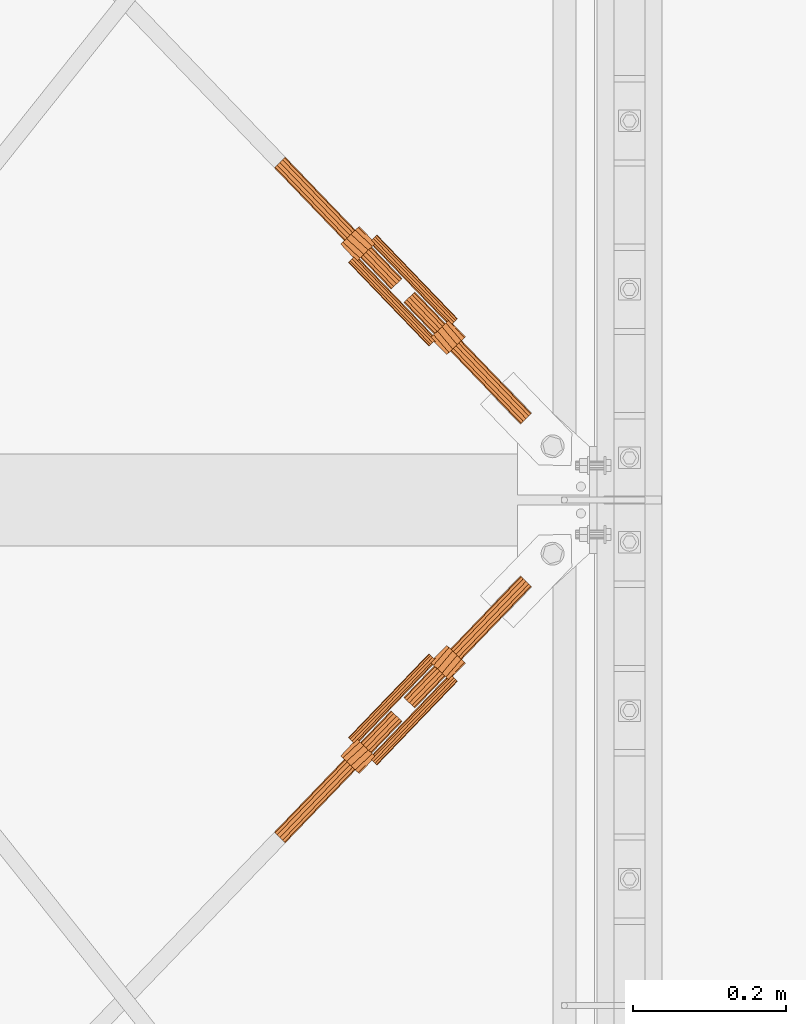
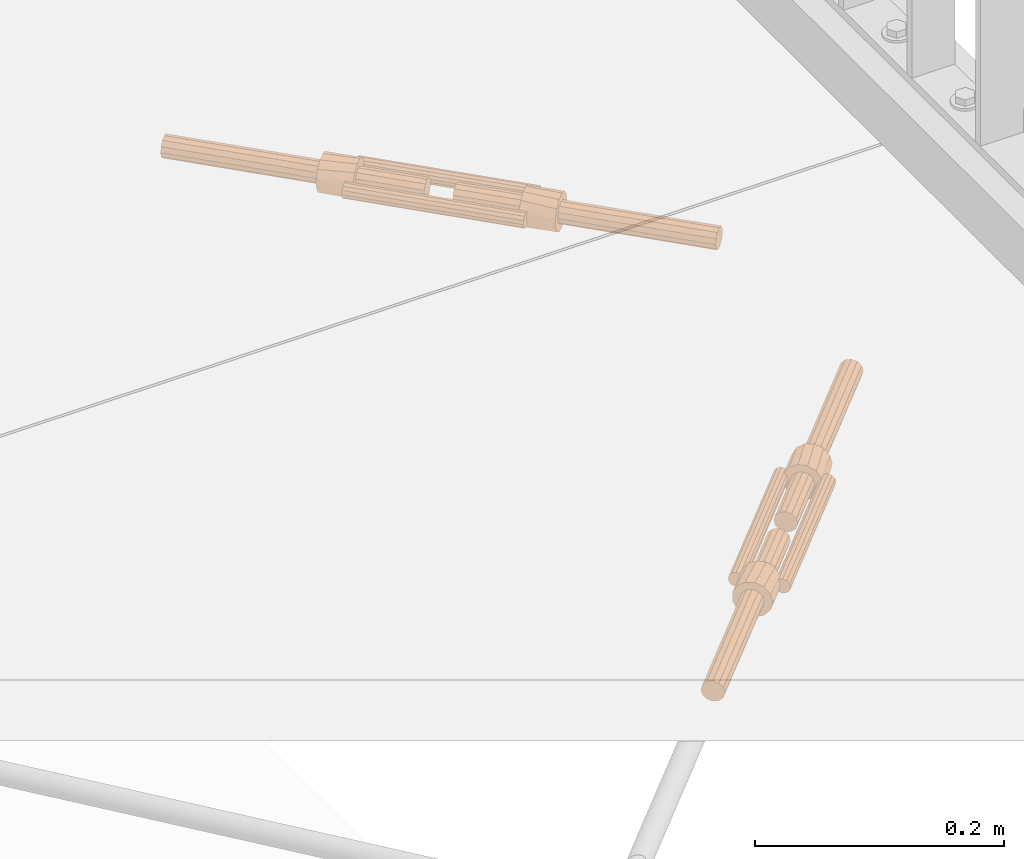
# One storey, part 133 of 145: 2 proxies.
"""IFC2X3 building model written with IfcOpenShell, lengths in millimetres."""

from ifc_helpers import new_model, entity, si_unit, converted_unit, origin_with_axes, place, context, project, spatial, faceted_brep, material, element, save


model = new_model("IFC2X3")

# Units and contexts
model_context = context("Model", 3, precision=1e-09, world=origin_with_axes())
ifc_project = project(units=[si_unit("LENGTHUNIT", "METRE", prefix="MILLI"), si_unit("AREAUNIT", "SQUARE_METRE"), si_unit("VOLUMEUNIT", "CUBIC_METRE"), converted_unit("PLANEANGLEUNIT", "DEGREE", entity("IfcPlaneAngleMeasure", 0.01745329), si_unit("PLANEANGLEUNIT", "RADIAN"), dimensions=[0, 0, 0, 0, 0, 0, 0])], contexts=[model_context])

# Site, building, storey
site_placement = place(None, origin_with_axes())
site = spatial("IfcSite", under=ifc_project, at=site_placement, Name="BZ1 Grund- und Mittelschule 85716 Unterschlei?heim", CompositionType="ELEMENT")
building_placement = place(site_placement, origin_with_axes())
building = spatial("IfcBuilding", under=site, at=building_placement, Name="Struktur 1", CompositionType="ELEMENT")
storey_placement = place(building_placement, origin_with_axes())
storey = spatial("IfcBuildingStorey", under=building, at=storey_placement, Name="Default Storey", CompositionType="ELEMENT", Elevation=0.0)

# Proxies
ifc_material = material(Name="S235JR")
proxy_1_placement = place(None, origin_with_axes())
element("IfcBuildingElementProxy", 1, at=proxy_1_placement, inside=storey, material=ifc_material, ObjectType="-", context=model_context, shape_type="Brep", body=[
    faceted_brep([(21352.091775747, -1493.731638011, 1442.058250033), (21246.766919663, -1384.138414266, 1442.058250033), (21246.122779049, -1384.757467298, 1438.6363644), (21351.447635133, -1494.350691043, 1438.6363644), (21246.766919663, -1384.138414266, 1435.214478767), (21352.091775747, -1493.731638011, 1435.214478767), (21252.707718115, -1378.428994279, 1440.758397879), (21252.707718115, -1378.428994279, 1436.514330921), (21253.465676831, -1377.700556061, 1432.402521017), (21250.975496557, -1380.093750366, 1431.641555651), (21248.534922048, -1382.439270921, 1432.666043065), (21248.534922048, -1382.439270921, 1444.606685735), (21250.975496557, -1380.093750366, 1445.631173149), (21253.465676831, -1377.700556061, 1444.870207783), (21353.859778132, -1492.032494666, 1444.606685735), (21356.300352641, -1489.686974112, 1431.641555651), (21353.859778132, -1492.032494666, 1432.666043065), (21258.03899295, -1382.459209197, 1432.402521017), (21354.217216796, -1482.53512667, 1432.402521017), (21358.790532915, -1487.293779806, 1432.402521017), (21358.032574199, -1488.022218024, 1436.514330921), (21358.032574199, -1488.022218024, 1440.758397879), (21358.790532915, -1487.293779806, 1444.870207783), (21356.300352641, -1489.686974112, 1445.631173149), (21356.847103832, -1480.007666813, 1437.110737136), (21355.911199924, -1480.907119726, 1434.349356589), (21259.732976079, -1380.831202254, 1434.349356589), (21260.668879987, -1379.93174934, 1437.110737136), (21261.385930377, -1379.242626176, 1425.824378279), (21266.53984724, -1374.289440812, 1422.119860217), (21272.344761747, -1368.710612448, 1422.119860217), (21277.49867861, -1363.757427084, 1425.824378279), (21280.845616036, -1360.540844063, 1432.402521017), (21279.151632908, -1362.168851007, 1434.349356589), (21278.215729, -1363.06830392, 1437.110737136), (21278.215729, -1363.06830392, 1440.161991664), (21279.151632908, -1362.168851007, 1442.923372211), (21280.845616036, -1360.540844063, 1444.870207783), (21277.49867861, -1363.757427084, 1451.448350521), (21272.344761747, -1368.710612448, 1455.152868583), (21266.53984724, -1374.289440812, 1455.152868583), (21261.385930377, -1379.242626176, 1451.448350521), (21258.03899295, -1382.459209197, 1444.870207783), (21259.732976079, -1380.831202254, 1442.923372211), (21260.668879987, -1379.93174934, 1440.161991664), (21356.847103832, -1480.007666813, 1440.161991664), (21357.564154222, -1479.318543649, 1451.448350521), (21362.718071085, -1474.365358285, 1455.152868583), (21368.522985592, -1468.786529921, 1455.152868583), (21373.676902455, -1463.833344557, 1451.448350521), (21377.023839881, -1460.616761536, 1444.870207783), (21375.329856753, -1462.244768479, 1442.923372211), (21374.393952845, -1463.144221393, 1440.161991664), (21374.393952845, -1463.144221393, 1437.110737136), (21375.329856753, -1462.244768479, 1434.349356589), (21377.023839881, -1460.616761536, 1432.402521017), (21373.676902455, -1463.833344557, 1425.824378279), (21368.522985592, -1468.786529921, 1422.119860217), (21362.718071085, -1474.365358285, 1422.119860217), (21357.564154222, -1479.318543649, 1425.824378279), (21355.911199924, -1480.907119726, 1442.923372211), (21354.217216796, -1482.53512667, 1444.870207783), (21359.376415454, -1477.576865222, 1433.6363644), (21362.015488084, -1475.040577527, 1429.976110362), (21365.620528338, -1471.575944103, 1428.6363644), (21369.225568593, -1468.111310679, 1429.976110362), (21371.864641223, -1465.575022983, 1433.6363644), (21372.830608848, -1464.646677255, 1438.6363644), (21371.864641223, -1465.575022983, 1443.6363644), (21369.225568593, -1468.111310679, 1447.296618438), (21365.620528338, -1471.575944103, 1448.6363644), (21362.015488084, -1475.040577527, 1447.296618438), (21359.376415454, -1477.576865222, 1443.6363644), (21358.410447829, -1478.50521095, 1438.6363644), (21236.337781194, -1360.87463568, 1434.567998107), (21239.064149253, -1358.254452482, 1427.36327921), (21236.337781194, -1360.87463568, 1442.704730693), (21319.602423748, -1436.191003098, 1433.6363644), (21318.636456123, -1437.119348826, 1438.6363644), (21322.241496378, -1433.654715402, 1429.976110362), (21239.064149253, -1358.254452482, 1449.90944959), (21243.892307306, -1353.61433848, 1454.531640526), (21249.716182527, -1348.017287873, 1455.51241526), (21255.201595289, -1342.745517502, 1452.62709012), (21259.091903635, -1339.006726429, 1446.536658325), (21260.495884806, -1337.65742663, 1438.6363644), (21259.091903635, -1339.006726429, 1430.736070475), (21255.201595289, -1342.745517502, 1424.64563868), (21249.716182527, -1348.017287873, 1421.76031354), (21243.892307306, -1353.61433848, 1422.741088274), (21241.02866743, -1356.366447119, 1438.6363644), (21241.994635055, -1355.438101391, 1433.6363644), (21244.633707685, -1352.901813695, 1429.976110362), (21248.238747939, -1349.437180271, 1428.6363644), (21251.843788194, -1345.972546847, 1429.976110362), (21254.482860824, -1343.436259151, 1433.6363644), (21255.448828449, -1342.507913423, 1438.6363644), (21254.482860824, -1343.436259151, 1443.6363644), (21251.843788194, -1345.972546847, 1447.296618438), (21248.238747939, -1349.437180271, 1448.6363644), (21244.633707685, -1352.901813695, 1447.296618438), (21241.994635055, -1355.438101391, 1443.6363644), (21153.167385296, -1257.728750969, 1429.976110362), (21156.772425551, -1254.264117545, 1428.6363644), (21150.528312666, -1260.265038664, 1433.6363644), (21305.611255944, -1416.350522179, 1429.976110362), (21265.837264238, -1374.964660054, 1429.976110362), (21269.442304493, -1371.50002663, 1428.6363644), (21309.216296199, -1412.885888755, 1428.6363644), (21325.846536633, -1430.190081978, 1428.6363644), (21377.649486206, -1502.456062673, 1427.36327921), (21374.923118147, -1505.076245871, 1434.567998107), (21374.923118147, -1505.076245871, 1442.704730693), (21329.451576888, -1426.725448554, 1447.296618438), (21332.090649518, -1424.189160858, 1443.6363644), (21333.056617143, -1423.26081513, 1438.6363644), (21332.090649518, -1424.189160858, 1433.6363644), (21329.451576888, -1426.725448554, 1429.976110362), (21319.602423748, -1436.191003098, 1443.6363644), (21322.241496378, -1433.654715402, 1447.296618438), (21325.846536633, -1430.190081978, 1448.6363644), (21160.377465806, -1250.799484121, 1447.296618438), (21163.016538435, -1248.263196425, 1443.6363644), (21163.98250606, -1247.334850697, 1438.6363644), (21163.016538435, -1248.263196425, 1433.6363644), (21160.377465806, -1250.799484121, 1429.976110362), (21149.562345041, -1261.193384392, 1438.6363644), (21150.528312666, -1260.265038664, 1443.6363644), (21153.167385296, -1257.728750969, 1447.296618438), (21156.772425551, -1254.264117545, 1448.6363644), (21305.611255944, -1416.350522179, 1447.296618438), (21302.972183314, -1418.886809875, 1443.6363644), (21302.006215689, -1419.815155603, 1438.6363644), (21302.972183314, -1418.886809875, 1433.6363644), (21312.821336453, -1409.421255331, 1429.976110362), (21315.460409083, -1406.884967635, 1433.6363644), (21316.426376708, -1405.956621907, 1438.6363644), (21315.460409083, -1406.884967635, 1443.6363644), (21312.821336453, -1409.421255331, 1447.296618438), (21309.216296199, -1412.885888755, 1448.6363644), (21263.198191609, -1377.50094775, 1433.6363644), (21262.232223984, -1378.429293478, 1438.6363644), (21263.198191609, -1377.50094775, 1443.6363644), (21265.837264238, -1374.964660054, 1447.296618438), (21382.477644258, -1497.815948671, 1422.741088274), (21273.047344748, -1368.035393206, 1429.976110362), (21269.442304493, -1371.50002663, 1448.6363644), (21275.686417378, -1365.499105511, 1433.6363644), (21377.649486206, -1502.456062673, 1449.90944959), (21388.301519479, -1492.218898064, 1421.76031354), (21393.786932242, -1486.947127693, 1424.64563868), (21397.677240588, -1483.20833662, 1430.736070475), (21399.081221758, -1481.859036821, 1438.6363644), (21397.677240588, -1483.20833662, 1446.536658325), (21393.786932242, -1486.947127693, 1452.62709012), (21388.301519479, -1492.218898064, 1455.51241526), (21382.477644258, -1497.815948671, 1454.531640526), (21386.824084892, -1493.638790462, 1428.6363644), (21383.219044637, -1497.103423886, 1429.976110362), (21380.579972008, -1499.639711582, 1433.6363644), (21379.614004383, -1500.56805731, 1438.6363644), (21380.579972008, -1499.639711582, 1443.6363644), (21383.219044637, -1497.103423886, 1447.296618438), (21386.824084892, -1493.638790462, 1448.6363644), (21390.429125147, -1490.174157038, 1447.296618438), (21393.068197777, -1487.637869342, 1443.6363644), (21394.034165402, -1486.709523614, 1438.6363644), (21393.068197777, -1487.637869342, 1433.6363644), (21390.429125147, -1490.174157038, 1429.976110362), (21474.685367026, -1592.276486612, 1447.296618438), (21478.290407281, -1588.811853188, 1448.6363644), (21472.046294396, -1594.812774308, 1443.6363644), (21276.652385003, -1364.570759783, 1438.6363644), (21481.895447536, -1585.347219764, 1429.976110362), (21484.534520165, -1582.810932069, 1433.6363644), (21485.50048779, -1581.882586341, 1438.6363644), (21484.534520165, -1582.810932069, 1443.6363644), (21481.895447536, -1585.347219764, 1447.296618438), (21471.080326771, -1595.741120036, 1438.6363644), (21472.046294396, -1594.812774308, 1433.6363644), (21474.685367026, -1592.276486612, 1429.976110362), (21478.290407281, -1588.811853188, 1428.6363644), (21273.047344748, -1368.035393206, 1447.296618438), (21275.686417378, -1365.499105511, 1443.6363644), (21276.272299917, -1355.782190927, 1432.402521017), (21278.762480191, -1353.388996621, 1431.641555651), (21384.087336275, -1462.982220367, 1431.641555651), (21381.597156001, -1465.375414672, 1432.402521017), (21277.030258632, -1355.053752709, 1436.514330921), (21278.762480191, -1353.388996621, 1445.631173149), (21281.2030547, -1351.043476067, 1444.606685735), (21282.971057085, -1349.344332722, 1442.058250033), (21283.615197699, -1348.72527969, 1438.6363644), (21282.971057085, -1349.344332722, 1435.214478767), (21281.2030547, -1351.043476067, 1432.666043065), (21277.030258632, -1355.053752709, 1440.758397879), (21276.272299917, -1355.782190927, 1444.870207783), (21382.355114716, -1464.646976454, 1436.514330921), (21386.527910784, -1460.636699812, 1432.666043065), (21382.355114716, -1464.646976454, 1440.758397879), (21388.295913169, -1458.937556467, 1435.214478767), (21388.940053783, -1458.318503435, 1438.6363644), (21388.295913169, -1458.937556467, 1442.058250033), (21386.527910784, -1460.636699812, 1444.606685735), (21384.087336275, -1462.982220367, 1445.631173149), (21381.597156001, -1465.375414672, 1444.870207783)], [[[0, 1, 2, 3]], [[3, 2, 4, 5]], [[6, 7, 8, 9, 10, 4, 2, 1, 11, 12, 13]], [[11, 1, 0, 14]], [[10, 9, 15, 16]], [[4, 10, 16, 5]], [[15, 9, 8, 17, 18, 19]], [[20, 21, 22, 23, 14, 0, 3, 5, 16, 15, 19]], [[24, 25, 26, 27]], [[17, 26, 25, 18]], [[28, 17, 8]], [[28, 29, 30, 31, 32, 33, 34, 35, 36, 37, 38, 39, 40, 41, 42, 43, 44, 27, 26, 17]], [[12, 11, 14, 23]], [[45, 24, 27, 44]], [[46, 47, 48, 49, 50, 51, 52, 53, 54, 55, 56, 57, 58, 59, 18, 25, 24, 45, 60, 61], [62, 63, 64, 65, 66, 67, 68, 69, 70, 71, 72, 73]], [[7, 74, 8]], [[74, 75, 8]], [[8, 75, 28]], [[7, 6, 76, 74]], [[12, 23, 22, 61, 42, 13]], [[43, 42, 61, 60]], [[44, 43, 60, 45]], [[77, 62, 73, 78]], [[79, 63, 62, 77]], [[76, 80, 81, 82, 83, 84, 85, 86, 87, 88, 89, 75, 74], [90, 91, 92, 93, 94, 95, 96, 97, 98, 99, 100, 101]], [[75, 89, 28]], [[92, 102, 103, 93]], [[102, 92, 91, 104]], [[13, 76, 6]], [[105, 106, 107, 108]], [[63, 79, 109, 64]], [[18, 59, 110]], [[19, 18, 110]], [[20, 19, 111]], [[21, 20, 111, 112]], [[113, 114, 115, 116, 117, 109, 79, 77, 78, 118, 119, 120]], [[28, 89, 29]], [[121, 122, 123, 124, 125, 103, 102, 104, 126, 127, 128, 129]], [[13, 42, 41]], [[80, 76, 13]], [[130, 131, 132, 133, 105, 108, 134, 135, 136, 137, 138, 139]], [[133, 140, 106, 105]], [[132, 141, 140, 133]], [[131, 142, 141, 132]], [[130, 143, 142, 131]], [[22, 21, 112]], [[78, 73, 72, 118]], [[110, 59, 144]], [[111, 19, 110]], [[104, 91, 90, 126]], [[108, 107, 145, 134]], [[89, 88, 29]], [[93, 103, 125, 94]], [[143, 130, 139, 146]], [[41, 80, 13]], [[147, 135, 134, 145]], [[148, 22, 112]], [[46, 61, 22]], [[118, 72, 71, 119]], [[64, 109, 117, 65]], [[59, 58, 144]], [[149, 150, 151, 152, 153, 154, 155, 156, 148, 112, 111, 110, 144], [157, 158, 159, 160, 161, 162, 163, 164, 165, 166, 167, 168]], [[162, 169, 170, 163]], [[169, 162, 161, 171]], [[65, 117, 116, 66]], [[128, 100, 99, 129]], [[127, 101, 100, 128]], [[126, 90, 101, 127]], [[29, 88, 30]], [[81, 80, 41]], [[135, 147, 172, 136]], [[46, 22, 148]], [[66, 116, 115, 67]], [[144, 58, 149]], [[173, 174, 175, 176, 177, 170, 169, 171, 178, 179, 180, 181]], [[88, 87, 30]], [[94, 125, 124, 95]], [[146, 139, 138, 182]], [[40, 81, 41]], [[129, 99, 98, 121]], [[156, 46, 148]], [[119, 71, 70, 120]], [[58, 57, 149]], [[181, 157, 168, 173]], [[157, 181, 180, 158]], [[179, 159, 158, 180]], [[178, 160, 159, 179]], [[171, 161, 160, 178]], [[163, 170, 177, 164]], [[30, 87, 31]], [[82, 81, 40]], [[34, 33, 54, 53]], [[183, 137, 136, 172]], [[182, 138, 137, 183]], [[47, 46, 156]], [[67, 115, 114, 68]], [[149, 57, 150]], [[95, 124, 123, 96]], [[86, 31, 87]], [[39, 82, 40]], [[121, 98, 97, 122]], [[32, 31, 86]], [[55, 54, 33, 32]], [[35, 34, 53, 52]], [[155, 47, 156]], [[120, 70, 69, 113]], [[68, 114, 113, 69]], [[57, 56, 150]], [[173, 168, 167, 174]], [[164, 177, 176, 165]], [[96, 123, 122, 97]], [[83, 82, 39]], [[184, 32, 86]], [[48, 47, 155]], [[150, 56, 151]], [[56, 55, 151]], [[38, 83, 39]], [[55, 32, 184, 185, 186, 187]], [[86, 188, 184]], [[36, 35, 52, 51]], [[154, 48, 155]], [[174, 167, 166, 175]], [[165, 176, 175, 166]], [[55, 187, 151]], [[84, 83, 38]], [[85, 188, 86]], [[189, 190, 191, 192, 193, 194, 185, 184, 188, 195, 196]], [[49, 48, 154]], [[151, 187, 197]], [[37, 84, 38]], [[195, 188, 85]], [[198, 186, 185, 194]], [[199, 197, 187, 186, 198, 200, 201, 202, 203, 204, 205]], [[37, 36, 51, 50]], [[153, 49, 154]], [[151, 197, 152]], [[84, 195, 85]], [[37, 196, 84]], [[50, 49, 153]], [[197, 199, 152]], [[196, 195, 84]], [[204, 189, 196, 37, 50, 205]], [[194, 193, 200, 198]], [[205, 50, 153]], [[152, 199, 153]], [[200, 193, 192, 201]], [[153, 199, 205]], [[190, 189, 204, 203]], [[201, 192, 191, 202]], [[191, 190, 203, 202]]]),
])
proxy_2_placement = place(None, origin_with_axes())
element("IfcBuildingElementProxy", 2, at=proxy_2_placement, inside=storey, material=ifc_material, ObjectType="-", context=model_context, shape_type="Brep", body=[
    faceted_brep([(21246.766919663, -2005.865585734, 1442.058250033), (21352.091775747, -1896.272361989, 1442.058250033), (21351.447635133, -1895.653308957, 1438.6363644), (21246.122779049, -2005.246532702, 1438.6363644), (21352.091775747, -1896.272361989, 1435.214478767), (21246.766919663, -2005.865585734, 1435.214478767), (21252.707718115, -2011.575005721, 1436.514330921), (21252.707718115, -2011.575005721, 1440.758397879), (21253.465676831, -2012.303443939, 1444.870207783), (21250.975496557, -2009.910249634, 1445.631173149), (21248.534922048, -2007.564729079, 1444.606685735), (21248.534922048, -2007.564729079, 1432.666043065), (21250.975496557, -2009.910249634, 1431.641555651), (21253.465676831, -2012.303443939, 1432.402521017), (21353.859778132, -1897.971505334, 1444.606685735), (21353.859778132, -1897.971505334, 1432.666043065), (21356.300352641, -1900.317025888, 1431.641555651), (21358.790532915, -1902.710220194, 1432.402521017), (21354.217216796, -1907.46887333, 1432.402521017), (21258.03899295, -2007.544790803, 1432.402521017), (21358.032574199, -1901.981781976, 1440.758397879), (21358.032574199, -1901.981781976, 1436.514330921), (21356.300352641, -1900.317025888, 1445.631173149), (21358.790532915, -1902.710220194, 1444.870207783), (21355.911199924, -1909.096880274, 1434.349356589), (21356.847103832, -1909.996333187, 1437.110737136), (21260.668879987, -2010.07225066, 1437.110737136), (21259.732976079, -2009.172797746, 1434.349356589), (21261.385930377, -2010.761373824, 1425.824378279), (21266.53984724, -2015.714559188, 1422.119860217), (21260.668879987, -2010.07225066, 1440.161991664), (21259.732976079, -2009.172797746, 1442.923372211), (21258.03899295, -2007.544790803, 1444.870207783), (21261.385930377, -2010.761373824, 1451.448350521), (21266.53984724, -2015.714559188, 1455.152868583), (21272.344761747, -2021.293387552, 1455.152868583), (21277.49867861, -2026.246572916, 1451.448350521), (21280.845616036, -2029.463155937, 1444.870207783), (21279.151632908, -2027.835148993, 1442.923372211), (21278.215729, -2026.93569608, 1440.161991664), (21278.215729, -2026.93569608, 1437.110737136), (21279.151632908, -2027.835148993, 1434.349356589), (21280.845616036, -2029.463155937, 1432.402521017), (21277.49867861, -2026.246572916, 1425.824378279), (21272.344761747, -2021.293387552, 1422.119860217), (21263.198191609, -2012.50305225, 1433.6363644), (21265.837264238, -2015.039339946, 1429.976110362), (21269.442304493, -2018.50397337, 1428.6363644), (21273.047344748, -2021.968606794, 1429.976110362), (21275.686417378, -2024.504894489, 1433.6363644), (21276.652385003, -2025.433240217, 1438.6363644), (21275.686417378, -2024.504894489, 1443.6363644), (21273.047344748, -2021.968606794, 1447.296618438), (21269.442304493, -2018.50397337, 1448.6363644), (21265.837264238, -2015.039339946, 1447.296618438), (21263.198191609, -2012.50305225, 1443.6363644), (21262.232223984, -2011.574706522, 1438.6363644), (21356.847103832, -1909.996333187, 1440.161991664), (21362.718071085, -1915.638641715, 1455.152868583), (21357.564154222, -1910.685456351, 1451.448350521), (21354.217216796, -1907.46887333, 1444.870207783), (21355.911199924, -1909.096880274, 1442.923372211), (21357.564154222, -1910.685456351, 1425.824378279), (21362.718071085, -1915.638641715, 1422.119860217), (21368.522985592, -1921.217470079, 1422.119860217), (21373.676902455, -1926.170655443, 1425.824378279), (21377.023839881, -1929.387238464, 1432.402521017), (21375.329856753, -1927.759231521, 1434.349356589), (21374.393952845, -1926.859778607, 1437.110737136), (21374.393952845, -1926.859778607, 1440.161991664), (21375.329856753, -1927.759231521, 1442.923372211), (21377.023839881, -1929.387238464, 1444.870207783), (21373.676902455, -1926.170655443, 1451.448350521), (21368.522985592, -1921.217470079, 1455.152868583), (21359.376415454, -1912.427134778, 1433.6363644), (21358.410447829, -1911.49878905, 1438.6363644), (21359.376415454, -1912.427134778, 1443.6363644), (21362.015488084, -1914.963422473, 1447.296618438), (21365.620528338, -1918.428055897, 1448.6363644), (21369.225568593, -1921.892689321, 1447.296618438), (21371.864641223, -1924.428977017, 1443.6363644), (21372.830608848, -1925.357322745, 1438.6363644), (21371.864641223, -1924.428977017, 1433.6363644), (21369.225568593, -1921.892689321, 1429.976110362), (21365.620528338, -1918.428055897, 1428.6363644), (21362.015488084, -1914.963422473, 1429.976110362), (21236.337781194, -2029.12936432, 1434.567998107), (21239.064149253, -2031.749547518, 1427.36327921), (21236.337781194, -2029.12936432, 1442.704730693), (21319.602423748, -1953.812996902, 1433.6363644), (21318.636456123, -1952.884651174, 1438.6363644), (21322.241496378, -1956.349284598, 1429.976110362), (21239.064149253, -2031.749547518, 1449.90944959), (21243.892307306, -2036.38966152, 1422.741088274), (21249.716182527, -2041.986712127, 1421.76031354), (21255.201595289, -2047.258482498, 1424.64563868), (21259.091903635, -2050.997273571, 1430.736070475), (21260.495884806, -2052.34657337, 1438.6363644), (21259.091903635, -2050.997273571, 1446.536658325), (21255.201595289, -2047.258482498, 1452.62709012), (21249.716182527, -2041.986712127, 1455.51241526), (21243.892307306, -2036.38966152, 1454.531640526), (21241.02866743, -2033.637552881, 1438.6363644), (21241.994635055, -2034.565898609, 1443.6363644), (21244.633707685, -2037.102186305, 1447.296618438), (21248.238747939, -2040.566819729, 1448.6363644), (21251.843788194, -2044.031453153, 1447.296618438), (21254.482860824, -2046.567740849, 1443.6363644), (21255.448828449, -2047.496086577, 1438.6363644), (21254.482860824, -2046.567740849, 1433.6363644), (21251.843788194, -2044.031453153, 1429.976110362), (21248.238747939, -2040.566819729, 1428.6363644), (21244.633707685, -2037.102186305, 1429.976110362), (21241.994635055, -2034.565898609, 1433.6363644), (21153.167385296, -2132.275249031, 1429.976110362), (21156.772425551, -2135.739882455, 1428.6363644), (21150.528312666, -2129.738961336, 1433.6363644), (21305.611255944, -1973.653477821, 1429.976110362), (21309.216296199, -1977.118111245, 1428.6363644), (21325.846536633, -1959.813918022, 1428.6363644), (21377.649486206, -1887.547937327, 1427.36327921), (21374.923118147, -1884.927754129, 1434.567998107), (21374.923118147, -1884.927754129, 1442.704730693), (21332.090649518, -1965.814839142, 1443.6363644), (21329.451576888, -1963.278551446, 1447.296618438), (21325.846536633, -1959.813918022, 1448.6363644), (21322.241496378, -1956.349284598, 1447.296618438), (21319.602423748, -1953.812996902, 1443.6363644), (21329.451576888, -1963.278551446, 1429.976110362), (21332.090649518, -1965.814839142, 1433.6363644), (21333.056617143, -1966.74318487, 1438.6363644), (21163.016538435, -2141.740803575, 1443.6363644), (21160.377465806, -2139.204515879, 1447.296618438), (21156.772425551, -2135.739882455, 1448.6363644), (21153.167385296, -2132.275249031, 1447.296618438), (21150.528312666, -2129.738961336, 1443.6363644), (21149.562345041, -2128.810615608, 1438.6363644), (21160.377465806, -2139.204515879, 1429.976110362), (21163.016538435, -2141.740803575, 1433.6363644), (21163.98250606, -2142.669149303, 1438.6363644), (21302.972183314, -1971.117190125, 1443.6363644), (21305.611255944, -1973.653477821, 1447.296618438), (21309.216296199, -1977.118111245, 1448.6363644), (21312.821336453, -1980.582744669, 1447.296618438), (21315.460409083, -1983.119032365, 1443.6363644), (21316.426376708, -1984.047378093, 1438.6363644), (21315.460409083, -1983.119032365, 1433.6363644), (21312.821336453, -1980.582744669, 1429.976110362), (21302.972183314, -1971.117190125, 1433.6363644), (21302.006215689, -1970.188844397, 1438.6363644), (21382.477644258, -1892.188051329, 1422.741088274), (21377.649486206, -1887.547937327, 1449.90944959), (21393.786932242, -1903.056872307, 1424.64563868), (21388.301519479, -1897.785101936, 1421.76031354), (21382.477644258, -1892.188051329, 1454.531640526), (21388.301519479, -1897.785101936, 1455.51241526), (21393.786932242, -1903.056872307, 1452.62709012), (21397.677240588, -1906.79566338, 1446.536658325), (21399.081221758, -1908.144963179, 1438.6363644), (21397.677240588, -1906.79566338, 1430.736070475), (21386.824084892, -1896.365209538, 1428.6363644), (21390.429125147, -1899.829842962, 1429.976110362), (21393.068197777, -1902.366130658, 1433.6363644), (21394.034165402, -1903.294476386, 1438.6363644), (21393.068197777, -1902.366130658, 1443.6363644), (21390.429125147, -1899.829842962, 1447.296618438), (21386.824084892, -1896.365209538, 1448.6363644), (21383.219044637, -1892.900576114, 1447.296618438), (21380.579972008, -1890.364288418, 1443.6363644), (21379.614004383, -1889.43594269, 1438.6363644), (21380.579972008, -1890.364288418, 1433.6363644), (21383.219044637, -1892.900576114, 1429.976110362), (21474.685367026, -1797.727513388, 1447.296618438), (21478.290407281, -1801.192146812, 1448.6363644), (21472.046294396, -1795.191225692, 1443.6363644), (21484.534520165, -1807.193067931, 1433.6363644), (21481.895447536, -1804.656780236, 1429.976110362), (21478.290407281, -1801.192146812, 1428.6363644), (21474.685367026, -1797.727513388, 1429.976110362), (21472.046294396, -1795.191225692, 1433.6363644), (21471.080326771, -1794.262879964, 1438.6363644), (21481.895447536, -1804.656780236, 1447.296618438), (21484.534520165, -1807.193067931, 1443.6363644), (21485.50048779, -1808.121413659, 1438.6363644), (21276.272299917, -2034.221809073, 1432.402521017), (21381.597156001, -1924.628585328, 1432.402521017), (21384.087336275, -1927.021779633, 1431.641555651), (21278.762480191, -2036.615003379, 1431.641555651), (21277.030258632, -2034.950247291, 1436.514330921), (21281.2030547, -2038.960523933, 1444.606685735), (21278.762480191, -2036.615003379, 1445.631173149), (21276.272299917, -2034.221809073, 1444.870207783), (21277.030258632, -2034.950247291, 1440.758397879), (21281.2030547, -2038.960523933, 1432.666043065), (21282.971057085, -2040.659667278, 1435.214478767), (21283.615197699, -2041.27872031, 1438.6363644), (21282.971057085, -2040.659667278, 1442.058250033), (21382.355114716, -1925.357023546, 1436.514330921), (21386.527910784, -1929.367300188, 1432.666043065), (21382.355114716, -1925.357023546, 1440.758397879), (21381.597156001, -1924.628585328, 1444.870207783), (21384.087336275, -1927.021779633, 1445.631173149), (21386.527910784, -1929.367300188, 1444.606685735), (21388.295913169, -1931.066443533, 1442.058250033), (21388.940053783, -1931.685496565, 1438.6363644), (21388.295913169, -1931.066443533, 1435.214478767)], [[[0, 1, 2, 3]], [[3, 2, 4, 5]], [[6, 7, 8, 9, 10, 0, 3, 5, 11, 12, 13]], [[0, 10, 14, 1]], [[12, 11, 15, 16]], [[11, 5, 4, 15]], [[12, 16, 17, 18, 19, 13]], [[20, 21, 17, 16, 15, 4, 2, 1, 14, 22, 23]], [[24, 25, 26, 27]], [[27, 19, 18, 24]], [[19, 28, 13]], [[29, 28, 19, 27, 26, 30, 31, 32, 33, 34, 35, 36, 37, 38, 39, 40, 41, 42, 43, 44], [45, 46, 47, 48, 49, 50, 51, 52, 53, 54, 55, 56]], [[10, 9, 22, 14]], [[25, 57, 30, 26]], [[58, 59, 60, 61, 57, 25, 24, 18, 62, 63, 64, 65, 66, 67, 68, 69, 70, 71, 72, 73], [74, 75, 76, 77, 78, 79, 80, 81, 82, 83, 84, 85]], [[86, 6, 13]], [[87, 86, 13]], [[87, 13, 28]], [[7, 6, 86, 88]], [[22, 9, 8, 32, 60, 23]], [[32, 31, 61, 60]], [[31, 30, 57, 61]], [[74, 89, 90, 75]], [[85, 91, 89, 74]], [[92, 88, 86, 87, 93, 94, 95, 96, 97, 98, 99, 100, 101], [102, 103, 104, 105, 106, 107, 108, 109, 110, 111, 112, 113]], [[93, 87, 28]], [[114, 112, 111, 115]], [[112, 114, 116, 113]], [[88, 8, 7]], [[46, 117, 118, 47]], [[91, 85, 84, 119]], [[62, 18, 120]], [[18, 17, 120]], [[17, 21, 121]], [[21, 20, 122, 121]], [[123, 124, 125, 126, 127, 90, 89, 91, 119, 128, 129, 130]], [[93, 28, 29]], [[131, 132, 133, 134, 135, 136, 116, 114, 115, 137, 138, 139]], [[32, 8, 33]], [[88, 92, 8]], [[140, 141, 142, 143, 144, 145, 146, 147, 118, 117, 148, 149]], [[45, 148, 117, 46]], [[56, 149, 148, 45]], [[55, 140, 149, 56]], [[54, 141, 140, 55]], [[20, 23, 122]], [[75, 90, 127, 76]], [[62, 120, 150]], [[17, 121, 120]], [[113, 116, 136, 102]], [[47, 118, 147, 48]], [[94, 93, 29]], [[115, 111, 110, 137]], [[141, 54, 53, 142]], [[92, 33, 8]], [[146, 49, 48, 147]], [[23, 151, 122]], [[60, 59, 23]], [[76, 127, 126, 77]], [[119, 84, 83, 128]], [[63, 62, 150]], [[152, 153, 150, 120, 121, 122, 151, 154, 155, 156, 157, 158, 159], [160, 161, 162, 163, 164, 165, 166, 167, 168, 169, 170, 171]], [[172, 167, 166, 173]], [[167, 172, 174, 168]], [[128, 83, 82, 129]], [[104, 134, 133, 105]], [[103, 135, 134, 104]], [[102, 136, 135, 103]], [[94, 29, 44]], [[92, 101, 33]], [[49, 146, 145, 50]], [[23, 59, 151]], [[129, 82, 81, 130]], [[63, 150, 153]], [[175, 176, 177, 178, 179, 180, 174, 172, 173, 181, 182, 183]], [[95, 94, 44]], [[137, 110, 109, 138]], [[142, 53, 52, 143]], [[101, 34, 33]], [[105, 133, 132, 106]], [[59, 154, 151]], [[77, 126, 125, 78]], [[64, 63, 153]], [[160, 177, 176, 161]], [[177, 160, 171, 178]], [[170, 179, 178, 171]], [[169, 180, 179, 170]], [[168, 174, 180, 169]], [[173, 166, 165, 181]], [[95, 44, 43]], [[101, 100, 34]], [[41, 40, 68, 67]], [[144, 51, 50, 145]], [[143, 52, 51, 144]], [[59, 58, 154]], [[130, 81, 80, 123]], [[64, 153, 152]], [[138, 109, 108, 139]], [[43, 96, 95]], [[100, 35, 34]], [[106, 132, 131, 107]], [[43, 42, 96]], [[67, 66, 42, 41]], [[40, 39, 69, 68]], [[58, 155, 154]], [[78, 125, 124, 79]], [[123, 80, 79, 124]], [[65, 64, 152]], [[161, 176, 175, 162]], [[181, 165, 164, 182]], [[139, 108, 107, 131]], [[100, 99, 35]], [[42, 184, 96]], [[58, 73, 155]], [[65, 152, 159]], [[66, 65, 159]], [[99, 36, 35]], [[42, 66, 185, 186, 187, 184]], [[188, 96, 184]], [[39, 38, 70, 69]], [[73, 156, 155]], [[162, 175, 183, 163]], [[182, 164, 163, 183]], [[185, 66, 159]], [[99, 98, 36]], [[188, 97, 96]], [[189, 190, 191, 192, 188, 184, 187, 193, 194, 195, 196]], [[73, 72, 156]], [[185, 159, 197]], [[98, 37, 36]], [[188, 192, 97]], [[186, 198, 193, 187]], [[197, 199, 200, 201, 202, 203, 204, 205, 198, 186, 185]], [[38, 37, 71, 70]], [[72, 157, 156]], [[197, 159, 158]], [[192, 98, 97]], [[191, 37, 98]], [[72, 71, 157]], [[199, 197, 158]], [[192, 191, 98]], [[190, 201, 200, 71, 37, 191]], [[194, 193, 198, 205]], [[71, 200, 157]], [[199, 158, 157]], [[194, 205, 204, 195]], [[199, 157, 200]], [[190, 189, 202, 201]], [[195, 204, 203, 196]], [[189, 196, 203, 202]]]),
])

save(model, "model.ifc")
